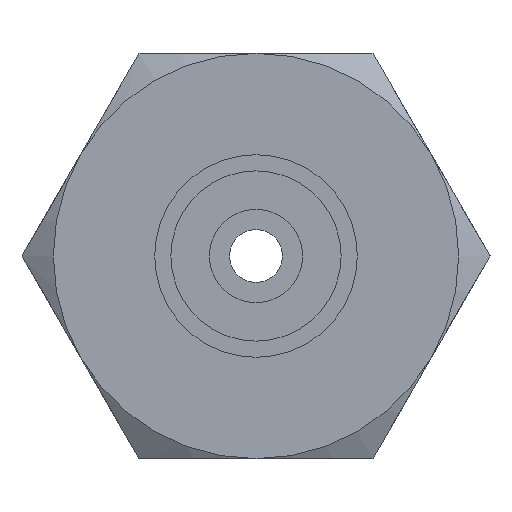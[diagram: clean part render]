
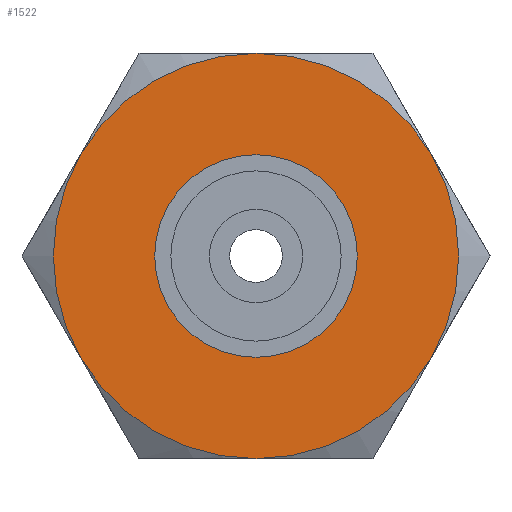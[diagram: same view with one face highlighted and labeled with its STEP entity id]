
A CAD part, left-side view. The second image highlights one B-rep face of the part: STEP entity #1522.
In plain terms, the highlighted planar face has unit normal (-1, 0, 0).
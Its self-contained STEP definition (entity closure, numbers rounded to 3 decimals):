
#222=PLANE('',#1694);
#309=FACE_BOUND('',#534,.T.);
#408=FACE_OUTER_BOUND('',#533,.T.);
#533=EDGE_LOOP('',(#1382,#1383,#1384,#1385,#1386,#1387));
#534=EDGE_LOOP('',(#1388));
#554=CIRCLE('',#1549,2.5);
#592=CIRCLE('',#1653,5.);
#593=CIRCLE('',#1655,5.);
#594=CIRCLE('',#1657,5.);
#595=CIRCLE('',#1659,5.);
#596=CIRCLE('',#1661,5.);
#610=CIRCLE('',#1695,5.);
#624=VERTEX_POINT('',#2112);
#647=VERTEX_POINT('',#2183);
#675=VERTEX_POINT('',#2283);
#695=VERTEX_POINT('',#2371);
#712=VERTEX_POINT('',#2457);
#727=VERTEX_POINT('',#2512);
#741=VERTEX_POINT('',#2594);
#766=EDGE_CURVE('',#624,#624,#554,.T.);
#954=EDGE_CURVE('',#647,#712,#592,.T.);
#955=EDGE_CURVE('',#675,#647,#593,.T.);
#956=EDGE_CURVE('',#695,#675,#594,.T.);
#957=EDGE_CURVE('',#712,#741,#595,.T.);
#958=EDGE_CURVE('',#741,#727,#596,.T.);
#972=EDGE_CURVE('',#727,#695,#610,.T.);
#1382=ORIENTED_EDGE('',*,*,#956,.F.);
#1383=ORIENTED_EDGE('',*,*,#972,.F.);
#1384=ORIENTED_EDGE('',*,*,#958,.F.);
#1385=ORIENTED_EDGE('',*,*,#957,.F.);
#1386=ORIENTED_EDGE('',*,*,#954,.F.);
#1387=ORIENTED_EDGE('',*,*,#955,.F.);
#1388=ORIENTED_EDGE('',*,*,#766,.T.);
#1522=ADVANCED_FACE('',(#408,#309),#222,.T.);
#1549=AXIS2_PLACEMENT_3D('',#2113,#1742,#1743);
#1653=AXIS2_PLACEMENT_3D('',#2737,#1980,#1981);
#1655=AXIS2_PLACEMENT_3D('',#2739,#1984,#1985);
#1657=AXIS2_PLACEMENT_3D('',#2741,#1988,#1989);
#1659=AXIS2_PLACEMENT_3D('',#2743,#1992,#1993);
#1661=AXIS2_PLACEMENT_3D('',#2745,#1996,#1997);
#1694=AXIS2_PLACEMENT_3D('',#2778,#2062,#2063);
#1695=AXIS2_PLACEMENT_3D('',#2779,#2064,#2065);
#1742=DIRECTION('center_axis',(1.,0.,0.));
#1743=DIRECTION('ref_axis',(0.,1.,0.));
#1980=DIRECTION('center_axis',(1.,0.,0.));
#1981=DIRECTION('ref_axis',(0.,1.,0.));
#1984=DIRECTION('center_axis',(1.,0.,0.));
#1985=DIRECTION('ref_axis',(0.,1.,0.));
#1988=DIRECTION('center_axis',(1.,0.,0.));
#1989=DIRECTION('ref_axis',(0.,1.,0.));
#1992=DIRECTION('center_axis',(1.,0.,0.));
#1993=DIRECTION('ref_axis',(0.,1.,0.));
#1996=DIRECTION('center_axis',(1.,0.,0.));
#1997=DIRECTION('ref_axis',(0.,1.,0.));
#2062=DIRECTION('center_axis',(-1.,0.,0.));
#2063=DIRECTION('ref_axis',(0.,0.,1.));
#2064=DIRECTION('center_axis',(1.,0.,0.));
#2065=DIRECTION('ref_axis',(0.,1.,0.));
#2112=CARTESIAN_POINT('',(-15.836,-2.5,0.));
#2113=CARTESIAN_POINT('Origin',(-15.836,0.,0.));
#2183=CARTESIAN_POINT('',(-15.836,0.,5.));
#2283=CARTESIAN_POINT('',(-15.836,4.33,2.5));
#2371=CARTESIAN_POINT('',(-15.836,4.33,-2.5));
#2457=CARTESIAN_POINT('',(-15.836,-4.33,2.5));
#2512=CARTESIAN_POINT('',(-15.836,0.,-5.));
#2594=CARTESIAN_POINT('',(-15.836,-4.33,-2.5));
#2737=CARTESIAN_POINT('Origin',(-15.836,0.,0.));
#2739=CARTESIAN_POINT('Origin',(-15.836,0.,0.));
#2741=CARTESIAN_POINT('Origin',(-15.836,0.,0.));
#2743=CARTESIAN_POINT('Origin',(-15.836,0.,0.));
#2745=CARTESIAN_POINT('Origin',(-15.836,0.,0.));
#2778=CARTESIAN_POINT('Origin',(-15.836,3.75,0.));
#2779=CARTESIAN_POINT('Origin',(-15.836,0.,0.));
